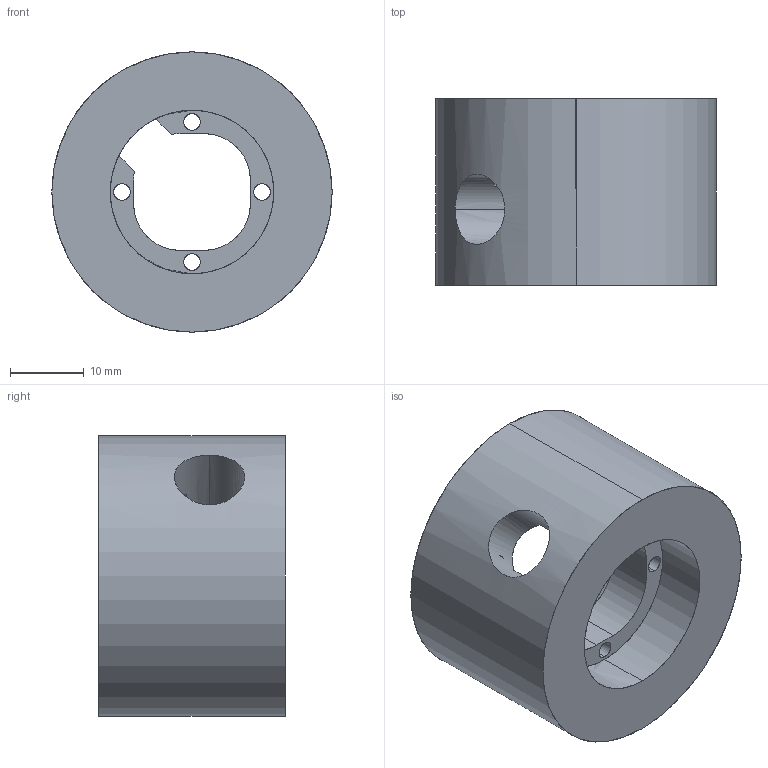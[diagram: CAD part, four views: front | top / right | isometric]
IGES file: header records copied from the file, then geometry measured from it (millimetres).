
Start section: SolidWorks IGES file using analytic representation for surfaces
Global section: file name: C:\Users\Bud\Documents\GitHub\telemetry\Hardware\Masthead hardware\IGES\masthead body.IGS; native system: SolidWorks 2011; preprocessor: SolidWorks 2011; author: Bud; date: 131225.212047; units: inch
Bounding box: 38.1 x 25.4 x 38.1 mm (x, y, z)
Surface area: 7472 mm2 (no closed solid volume)
Topology: 0 solids, 0 shells, 55 faces, 1124 edges, 1112 vertices
Faces by surface type: revolution 47, bspline 8
